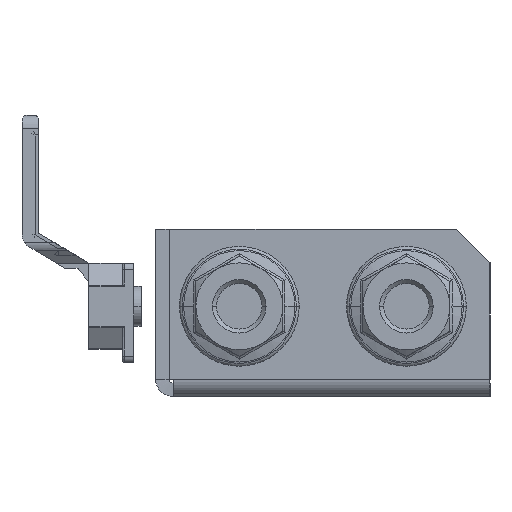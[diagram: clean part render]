
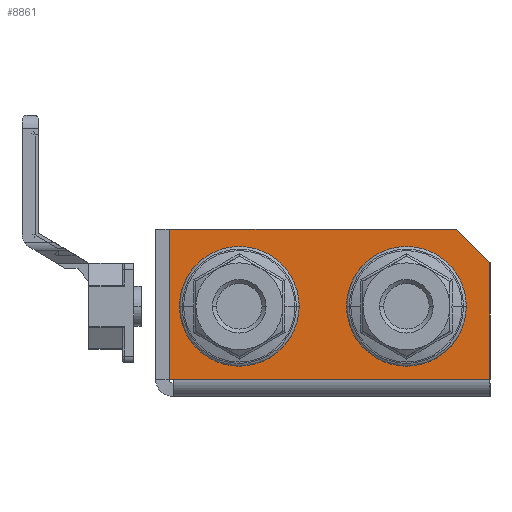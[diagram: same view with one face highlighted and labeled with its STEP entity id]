
A CAD part, left-side view. The second image highlights one B-rep face of the part: STEP entity #8861.
In plain terms, the highlighted planar face has unit normal (-1, 0, 0) as drawn and (1, 0, 0) by its records, which use the part's own axes.
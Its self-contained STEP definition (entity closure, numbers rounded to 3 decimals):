
#7541=CARTESIAN_POINT(' ',(0.,-2.707,-0.6));
#7542=VERTEX_POINT(' ',#7541);
#8201=CARTESIAN_POINT(' ',(0.,-50.,-0.6));
#8202=VERTEX_POINT(' ',#8201);
#8216=CARTESIAN_POINT(' ',(0.,-2.707,-0.6));
#8221=DIRECTION(' ',(0.,-1.,0.));
#8226=VECTOR(' ',#8221,1.);
#8231=LINE('',#8216,#8226);
#8236=EDGE_CURVE(' ',#7542,#8202,#8231,.T.);
#8291=CARTESIAN_POINT(' ',(0.,-2.707,-0.6));
#8296=DIRECTION(' ',(0.,1.,0.));
#8301=VECTOR(' ',#8296,1.);
#8306=LINE('',#8291,#8301);
#8311=CARTESIAN_POINT(' ',(0.,-2.1,-0.6));
#8312=VERTEX_POINT(' ',#8311);
#8316=EDGE_CURVE(' ',#7542,#8312,#8306,.T.);
#8681=DIRECTION(' ',(1.,0.,0.));
#8686=CARTESIAN_POINT(' ',(0.,-2.1,-0.6));
#8691=DIRECTION(' ',(0.,-1.,0.));
#8696=AXIS2_PLACEMENT_3D(' ',#8686,#8681,#8691);
#8701=PLANE('NONE',#8696);
#8706=CARTESIAN_POINT(' ',(0.,-2.1,-23.));
#8711=DIRECTION(' ',(0.,-1.,0.));
#8716=VECTOR(' ',#8711,1.);
#8721=LINE('',#8706,#8716);
#8726=CARTESIAN_POINT(' ',(0.,-2.1,-23.));
#8727=VERTEX_POINT(' ',#8726);
#8731=CARTESIAN_POINT(' ',(0.,-45.,-23.));
#8732=VERTEX_POINT(' ',#8731);
#8736=EDGE_CURVE(' ',#8727,#8732,#8721,.T.);
#8741=ORIENTED_EDGE(' ',*,*,#8736,.F.);
#8746=CARTESIAN_POINT(' ',(0.,-2.1,-0.6));
#8751=DIRECTION(' ',(0.,0.,-1.));
#8756=VECTOR(' ',#8751,1.);
#8761=LINE('',#8746,#8756);
#8766=EDGE_CURVE(' ',#8312,#8727,#8761,.T.);
#8771=ORIENTED_EDGE(' ',*,*,#8766,.F.);
#8776=ORIENTED_EDGE(' ',*,*,#8316,.F.);
#8781=ORIENTED_EDGE(' ',*,*,#8236,.T.);
#8786=CARTESIAN_POINT(' ',(0.,-50.,-18.));
#8791=DIRECTION(' ',(0.,0.,1.));
#8796=VECTOR(' ',#8791,1.);
#8801=LINE('',#8786,#8796);
#8806=CARTESIAN_POINT(' ',(0.,-50.,-18.));
#8807=VERTEX_POINT(' ',#8806);
#8811=EDGE_CURVE(' ',#8807,#8202,#8801,.T.);
#8816=ORIENTED_EDGE(' ',*,*,#8811,.F.);
#8821=CARTESIAN_POINT(' ',(0.,-45.,-23.));
#8826=DIRECTION(' ',(0.,-0.707,0.707));
#8831=VECTOR(' ',#8826,1.);
#8836=LINE('',#8821,#8831);
#8841=EDGE_CURVE(' ',#8732,#8807,#8836,.T.);
#8846=ORIENTED_EDGE(' ',*,*,#8841,.F.);
#8851=EDGE_LOOP(' ',(#8741,#8771,#8776,#8781,#8816,#8846));
#8856=FACE_OUTER_BOUND(' ',#8851,.T.);
#8861=ADVANCED_FACE('NONE',(#8856),#8701,.T.);
